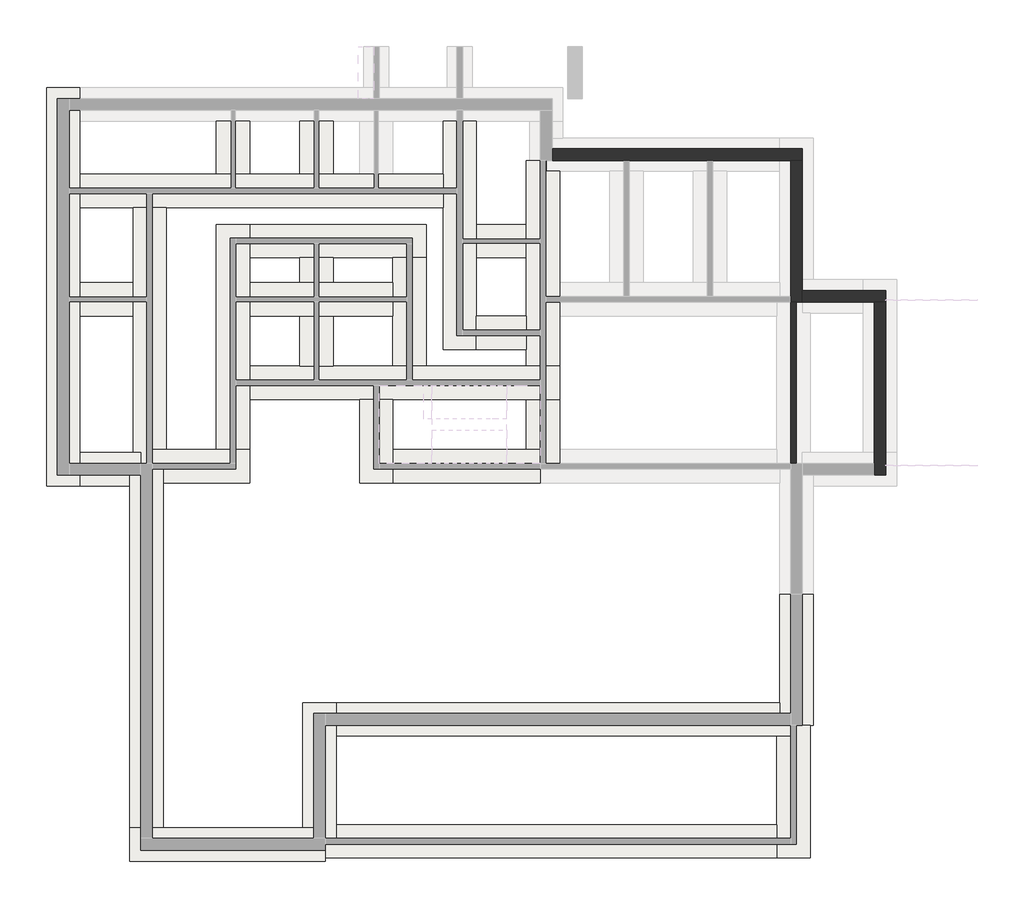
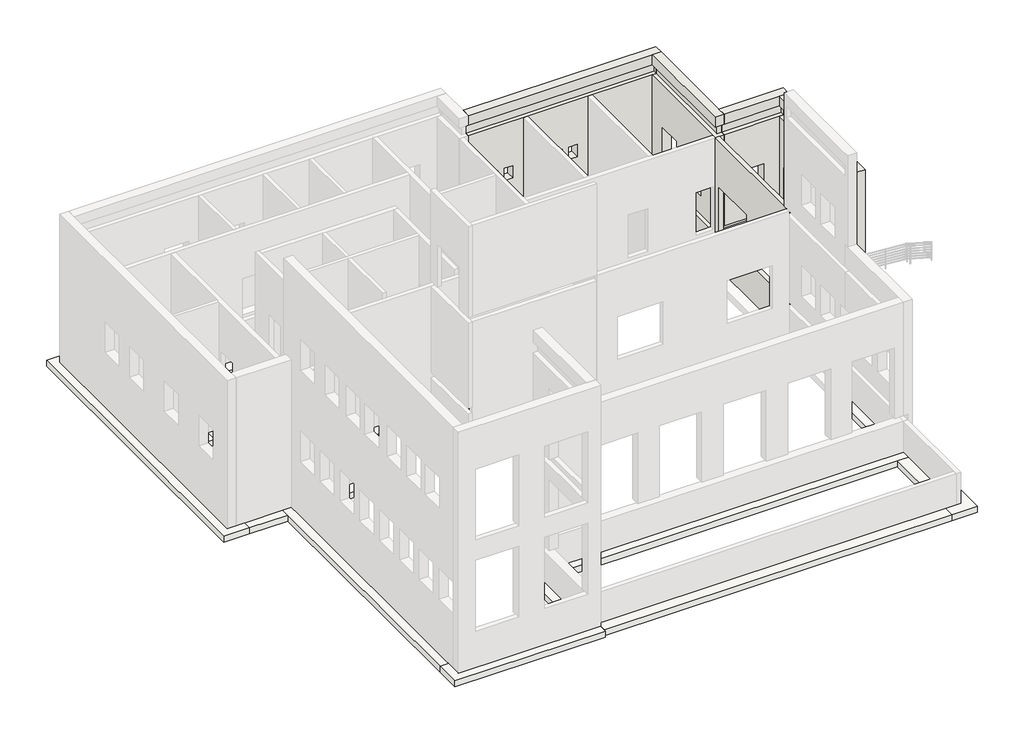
# One storey, part 3 of 5: 27 footings, 5 walls.
"""IFC4 building model written with IfcOpenShell, lengths in millimetres."""

from ifc_helpers import new_model, si_unit, frame, origin, place, context, project, spatial, polyline, outline, extrude, faceted_brep, element, save

model = new_model("IFC4")

# Units and contexts
model_context = context("Model", 3, world=origin())
ifc_project = project(units=[si_unit("LENGTHUNIT", "METRE", prefix="MILLI")], contexts=[model_context])

# Site, building, storey
site = spatial("IfcSite", under=ifc_project)
building = spatial("IfcBuilding", under=site)
storey = spatial("IfcBuildingStorey", under=building, Name="Фундамент", Elevation=-1800.0)

# Footings
placement = place(None, origin())
element("IfcFooting", 1, ObjectType="Опорная пята - 1200 x 300", at=placement, inside=storey, context=model_context, shape_type="Brep", body=[
    faceted_brep([(8252.7882356, 1082.3976828, -1800.0), (9452.7882356, 1082.3976828, -1800.0), (9452.7882356, 1082.3976828, -2100.0), (8252.7882356, 1082.3976828, -2100.0), (9452.7882356, -3627.6023172, -1800.0), (9342.7882356, -3627.6023172, -1800.0), (8794.5092705, -3627.6023172, -1800.0), (8252.7882356, -3627.6023172, -1800.0), (8252.7882356, -3627.6023172, -2100.0), (8794.5092705, -3627.6023172, -2100.0), (9342.7882356, -3627.6023172, -2100.0), (9452.7882356, -3627.6023172, -2100.0), (8252.7882356, -2817.6023172, -1800.0), (8252.7882356, -2817.6023172, -2100.0)], [[[0, 1, 2, 3]], [[4, 5, 6, 7, 8, 9, 10, 11]], [[0, 12, 7, 6, 5, 4, 1]], [[2, 1, 4, 11]], [[3, 2, 11, 10, 9, 8, 13]], [[0, 3, 13, 8, 7, 12]]]),
])
element("IfcFooting", 2, ObjectType="Опорная пята - 1200 x 300", at=placement, inside=storey, context=model_context, shape_type="Brep", body=[
    faceted_brep([(-16917.2117644, 4982.3976828, -1800.0), (-16917.2117644, 6182.3976828, -1800.0), (-16917.2117644, 11092.3976828, -1800.0), (-16917.2117644, 12292.3976828, -1800.0), (-16917.2117644, 14992.3976828, -1800.0), (-16917.2117644, 16192.3976828, -1800.0), (-16917.2117644, 18102.3976828, -1800.0), (-16917.2117644, 19302.3976828, -1800.0), (-18117.2117644, 19302.3976828, -1800.0), (-18117.2117644, 4982.3976828, -1800.0), (-18117.2117644, 4982.3976828, -2100.0), (-18117.2117644, 19302.3976828, -2100.0), (-16917.2117644, 4982.3976828, -2100.0), (-16917.2117644, 19302.3976828, -2100.0), (-16917.2117644, 18102.3976828, -2100.0), (-16917.2117644, 16192.3976828, -2100.0), (-16917.2117644, 14992.3976828, -2100.0), (-16917.2117644, 12292.3976828, -2100.0), (-16917.2117644, 11092.3976828, -2100.0), (-16917.2117644, 6182.3976828, -2100.0)], [[[0, 1, 2, 3, 4, 5, 6, 7, 8, 9]], [[10, 9, 8, 11]], [[12, 10, 11, 13, 14, 15, 16, 17, 18, 19]], [[0, 12, 19, 18, 17, 16, 15, 14, 13, 7, 6, 5, 4, 3, 2, 1]], [[8, 7, 13, 11]], [[0, 9, 10, 12]]]),
])
element("IfcFooting", 3, ObjectType="Опорная пята - 1200 x 300", at=placement, inside=storey, context=model_context, shape_type="Brep", body=[
    faceted_brep([(-8087.2117644, -7317.6023172, -1800.0), (-8087.2117644, -7707.6023172, -1800.0), (-8087.2117644, -8407.6023172, -1800.0), (-8087.2117644, -8517.6023172, -1800.0), (-8087.2117644, -8517.6023172, -2100.0), (-8087.2117644, -8407.6023172, -2100.0), (-8087.2117644, -7707.6023172, -2100.0), (-8087.2117644, -7317.6023172, -2100.0), (-8897.2117644, -7317.6023172, -1800.0), (-13917.2117644, -7317.6023172, -1800.0), (-15117.2117644, -7317.6023172, -1800.0), (-15117.2117644, -8517.6023172, -1800.0), (-15117.2117644, -8517.6023172, -2100.0), (-15117.2117644, -7317.6023172, -2100.0), (-13917.2117644, -7317.6023172, -2100.0), (-8897.2117644, -7317.6023172, -2100.0)], [[[0, 1, 2, 3, 4, 5, 6, 7]], [[0, 8, 9, 10, 11, 3, 2, 1]], [[4, 3, 11, 12]], [[7, 6, 5, 4, 12, 13, 14, 15]], [[0, 7, 15, 14, 13, 10, 9, 8]], [[11, 10, 13, 12]]]),
])
element("IfcFooting", 4, ObjectType="Опорная пята - 1200 x 300", at=placement, inside=storey, context=model_context, shape_type="Brep", body=[
    faceted_brep([(-15117.2117644, 5792.3976828, -2100.0), (-15117.2117644, 5792.3976828, -1800.0), (-14727.2117644, 5792.3976828, -1800.0), (-14307.2117644, 5792.3976828, -1800.0), (-13917.2117644, 5792.3976828, -1800.0), (-13917.2117644, 5792.3976828, -2100.0), (-14307.2117644, 5792.3976828, -2100.0), (-14727.2117644, 5792.3976828, -2100.0), (-15117.2117644, 4982.3976828, -1800.0), (-15117.2117644, -7317.6023172, -1800.0), (-13917.2117644, -7317.6023172, -1800.0), (-13917.2117644, 5092.3976828, -1800.0), (-15117.2117644, 4982.3976828, -2100.0), (-15117.2117644, -7317.6023172, -2100.0), (-13917.2117644, 5092.3976828, -2100.0), (-13917.2117644, -7317.6023172, -2100.0)], [[[0, 1, 2, 3, 4, 5, 6, 7]], [[4, 3, 2, 1, 8, 9, 10, 11]], [[1, 0, 12, 13, 9, 8]], [[0, 7, 6, 5, 14, 15, 13, 12]], [[5, 4, 11, 10, 15, 14]], [[10, 9, 13, 15]]]),
])
element("IfcFooting", 5, ObjectType="Опорная пята - 1200 x 300", at=placement, inside=storey, context=model_context, shape_type="Brep", body=[
    faceted_brep([(-14727.2117644, 6182.3976828, -2100.0), (-14727.2117644, 6182.3976828, -1800.0), (-14727.2117644, 5792.3976828, -1800.0), (-14727.2117644, 5792.3976828, -2100.0), (-15007.2117644, 6182.3976828, -1800.0), (-16917.2117644, 6182.3976828, -1800.0), (-16917.2117644, 4982.3976828, -1800.0), (-15117.2117644, 4982.3976828, -1800.0), (-15117.2117644, 5792.3976828, -1800.0), (-16917.2117644, 4982.3976828, -2100.0), (-15117.2117644, 4982.3976828, -2100.0), (-16917.2117644, 6182.3976828, -2100.0), (-15007.2117644, 6182.3976828, -2100.0), (-15117.2117644, 5792.3976828, -2100.0)], [[[0, 1, 2, 3]], [[1, 4, 5, 6, 7, 8, 2]], [[6, 9, 10, 7]], [[11, 12, 0, 3, 13, 10, 9]], [[1, 0, 12, 11, 5, 4]], [[6, 5, 11, 9]], [[8, 13, 3, 2]], [[13, 8, 7, 10]]]),
])
element("IfcFooting", 6, ObjectType="Опорная пята - 1200 x 300", at=placement, inside=storey, context=model_context, shape_type="Brep", body=[
    faceted_brep([(-14307.2117644, 6292.3976828, -1800.0), (-14307.2117644, 6292.3976828, -2100.0), (-14307.2117644, 5792.3976828, -2100.0), (-14307.2117644, 5792.3976828, -1800.0), (-10807.2117644, 6292.3976828, -1800.0), (-12007.2117644, 6292.3976828, -1800.0), (-13807.2117644, 6292.3976828, -1800.0), (-13917.2117644, 5792.3976828, -1800.0), (-13917.2117644, 5092.3976828, -1800.0), (-10807.2117644, 5092.3976828, -1800.0), (-10807.2117644, 6292.3976828, -2100.0), (-12007.2117644, 6292.3976828, -2100.0), (-13807.2117644, 6292.3976828, -2100.0), (-10807.2117644, 5092.3976828, -2100.0), (-13917.2117644, 5092.3976828, -2100.0), (-13917.2117644, 5792.3976828, -2100.0)], [[[0, 1, 2, 3]], [[4, 5, 6, 0, 3, 7, 8, 9]], [[1, 0, 6, 5, 4, 10, 11, 12]], [[1, 12, 11, 10, 13, 14, 15, 2]], [[13, 9, 8, 14]], [[4, 9, 13, 10]], [[15, 7, 3, 2]], [[7, 15, 14, 8]]]),
])
element("IfcFooting", 7, ObjectType="Опорная пята - 1200 x 300", at=placement, inside=storey, context=model_context, shape_type="Brep", body=[
    faceted_brep([(-10807.2117644, 14392.3976828, -1800.0), (-12007.2117644, 14392.3976828, -1800.0), (-12007.2117644, 6292.3976828, -1800.0), (-10807.2117644, 6292.3976828, -1800.0), (-10807.2117644, 8092.3976828, -1800.0), (-10807.2117644, 9292.3976828, -1800.0), (-10807.2117644, 11092.3976828, -1800.0), (-10807.2117644, 12292.3976828, -1800.0), (-10807.2117644, 13192.3976828, -1800.0), (-12007.2117644, 14392.3976828, -2100.0), (-12007.2117644, 6292.3976828, -2100.0), (-10807.2117644, 14392.3976828, -2100.0), (-10807.2117644, 13192.3976828, -2100.0), (-10807.2117644, 12292.3976828, -2100.0), (-10807.2117644, 11092.3976828, -2100.0), (-10807.2117644, 9292.3976828, -2100.0), (-10807.2117644, 8092.3976828, -2100.0), (-10807.2117644, 6292.3976828, -2100.0)], [[[0, 1, 2, 3, 4, 5, 6, 7, 8]], [[1, 9, 10, 2]], [[9, 11, 12, 13, 14, 15, 16, 17, 10]], [[11, 0, 8, 7, 6, 5, 4, 3, 17, 16, 15, 14, 13, 12]], [[1, 0, 11, 9]], [[3, 2, 10, 17]]]),
])
element("IfcFooting", 8, ObjectType="Опорная пята - 1200 x 300", at=placement, inside=storey, context=model_context, shape_type="Brep", body=[
    faceted_brep([(-10807.2117644, 8092.3976828, -1800.0), (-6857.2117644, 8092.3976828, -1800.0), (-5657.2117644, 8092.3976828, -1800.0), (-857.2117644, 8092.3976828, -1800.0), (342.7882356, 8092.3976828, -1800.0), (342.7882356, 9292.3976828, -1800.0), (-857.2117644, 9292.3976828, -1800.0), (-4457.2117644, 9292.3976828, -1800.0), (-5657.2117644, 9292.3976828, -1800.0), (-7807.2117644, 9292.3976828, -1800.0), (-9007.2117644, 9292.3976828, -1800.0), (-10807.2117644, 9292.3976828, -1800.0), (-10807.2117644, 9292.3976828, -2100.0), (342.7882356, 9292.3976828, -2100.0), (-857.2117644, 9292.3976828, -2100.0), (-4457.2117644, 9292.3976828, -2100.0), (-5657.2117644, 9292.3976828, -2100.0), (-7807.2117644, 9292.3976828, -2100.0), (-9007.2117644, 9292.3976828, -2100.0), (-10807.2117644, 8092.3976828, -2100.0), (342.7882356, 8092.3976828, -2100.0), (-857.2117644, 8092.3976828, -2100.0), (-5657.2117644, 8092.3976828, -2100.0), (-6857.2117644, 8092.3976828, -2100.0)], [[[0, 1, 2, 3, 4, 5, 6, 7, 8, 9, 10, 11]], [[12, 11, 10, 9, 8, 7, 6, 5, 13, 14, 15, 16, 17, 18]], [[19, 12, 18, 17, 16, 15, 14, 13, 20, 21, 22, 23]], [[0, 19, 23, 22, 21, 20, 4, 3, 2, 1]], [[0, 11, 12, 19]], [[5, 4, 20, 13]]]),
])
element("IfcFooting", 9, ObjectType="Опорная пята - 1200 x 300", at=placement, inside=storey, context=model_context, shape_type="Brep", body=[
    faceted_brep([(-6857.2117644, 8092.3976828, -1800.0), (-6857.2117644, 5092.3976828, -1800.0), (-5657.2117644, 5092.3976828, -1800.0), (-5657.2117644, 6292.3976828, -1800.0), (-5657.2117644, 8092.3976828, -1800.0), (-5657.2117644, 8092.3976828, -2100.0), (-5657.2117644, 5092.3976828, -2100.0), (-5657.2117644, 6292.3976828, -2100.0), (-6857.2117644, 8092.3976828, -2100.0), (-6857.2117644, 5092.3976828, -2100.0)], [[[0, 1, 2, 3, 4]], [[5, 4, 3, 2, 6, 7]], [[8, 5, 7, 6, 9]], [[0, 8, 9, 1]], [[0, 4, 5, 8]], [[2, 1, 9, 6]]]),
])
element("IfcFooting", 10, ObjectType="Опорная пята - 1200 x 300", at=placement, inside=storey, context=model_context, shape_type="Brep", body=[
    faceted_brep([(-357.2117644, 6292.3976828, -2100.0), (-357.2117644, 6292.3976828, -1800.0), (-357.2117644, 5792.3976828, -1800.0), (-357.2117644, 5092.3976828, -1800.0), (-357.2117644, 5092.3976828, -2100.0), (-357.2117644, 5792.3976828, -2100.0), (-857.2117644, 6292.3976828, -1800.0), (-5657.2117644, 6292.3976828, -1800.0), (-5657.2117644, 5092.3976828, -1800.0), (-857.2117644, 6292.3976828, -2100.0), (-5657.2117644, 6292.3976828, -2100.0), (-5657.2117644, 5092.3976828, -2100.0)], [[[0, 1, 2, 3, 4, 5]], [[3, 2, 1, 6, 7, 8]], [[1, 0, 9, 10, 7, 6]], [[0, 5, 4, 11, 10, 9]], [[4, 3, 8, 11]], [[8, 7, 10, 11]]]),
])
element("IfcFooting", 11, ObjectType="Опорная пята - 1200 x 300", at=placement, inside=storey, context=model_context, shape_type="Brep", body=[
    faceted_brep([(342.7882356, 5792.3976828, -2100.0), (342.7882356, 5792.3976828, -1800.0), (-157.2117644, 5792.3976828, -1800.0), (-357.2117644, 5792.3976828, -1800.0), (-357.2117644, 5792.3976828, -2100.0), (342.7882356, 6292.3976828, -1800.0), (342.7882356, 8092.3976828, -1800.0), (-857.2117644, 8092.3976828, -1800.0), (-857.2117644, 6292.3976828, -1800.0), (-357.2117644, 6292.3976828, -1800.0), (-857.2117644, 8092.3976828, -2100.0), (-857.2117644, 6292.3976828, -2100.0), (342.7882356, 8092.3976828, -2100.0), (342.7882356, 6292.3976828, -2100.0), (-357.2117644, 6292.3976828, -2100.0)], [[[0, 1, 2, 3, 4]], [[1, 5, 6, 7, 8, 9, 3, 2]], [[7, 10, 11, 8]], [[12, 13, 0, 4, 14, 11, 10]], [[1, 0, 13, 12, 6, 5]], [[7, 6, 12, 10]], [[9, 14, 4, 3]], [[14, 9, 8, 11]]]),
    faceted_brep([(-857.2117644, 16692.3976828, -2100.0), (-857.2117644, 16692.3976828, -1800.0), (-747.2117644, 16692.3976828, -1800.0), (-357.2117644, 16692.3976828, -1800.0), (-157.2117644, 16692.3976828, -1800.0), (-149.2724245, 16692.3976828, -1800.0), (-149.2724245, 16692.3976828, -2100.0), (-747.2117644, 16692.3976828, -2100.0), (-857.2117644, 14392.3976828, -1800.0), (-857.2117644, 13192.3976828, -1800.0), (-857.2117644, 11092.3976828, -1800.0), (-857.2117644, 9892.3976828, -1800.0), (-857.2117644, 9292.3976828, -1800.0), (342.7882356, 9292.3976828, -1800.0), (342.7882356, 11092.3976828, -1800.0), (342.7882356, 12292.3976828, -1800.0), (342.7882356, 16302.3976828, -1800.0), (-153.0993647, 16302.3976828, -1800.0), (-857.2117644, 14392.3976828, -2100.0), (-857.2117644, 13192.3976828, -2100.0), (-857.2117644, 11092.3976828, -2100.0), (-857.2117644, 9892.3976828, -2100.0), (-857.2117644, 9292.3976828, -2100.0), (-153.0993647, 16302.3976828, -2100.0), (342.7882356, 16302.3976828, -2100.0), (342.7882356, 12292.3976828, -2100.0), (342.7882356, 11092.3976828, -2100.0), (342.7882356, 9292.3976828, -2100.0)], [[[0, 1, 2, 3, 4, 5, 6, 7]], [[5, 4, 3, 2, 1, 8, 9, 10, 11, 12, 13, 14, 15, 16, 17]], [[1, 0, 18, 19, 20, 21, 22, 12, 11, 10, 9, 8]], [[0, 7, 6, 23, 24, 25, 26, 27, 22, 21, 20, 19, 18]], [[24, 16, 15, 14, 13, 27, 26, 25]], [[23, 17, 16, 24]], [[17, 23, 6, 5]], [[13, 12, 22, 27]]]),
])
element("IfcFooting", 12, ObjectType="Опорная пята - 1200 x 300", at=placement, inside=storey, context=model_context, shape_type="Brep", body=[
    faceted_brep([(-4457.2117644, 13192.3976828, -1800.0), (-4457.2117644, 14392.3976828, -1800.0), (-10807.2117644, 14392.3976828, -1800.0), (-10807.2117644, 13192.3976828, -1800.0), (-9007.2117644, 13192.3976828, -1800.0), (-7807.2117644, 13192.3976828, -1800.0), (-5657.2117644, 13192.3976828, -1800.0), (-4457.2117644, 14392.3976828, -2100.0), (-10807.2117644, 14392.3976828, -2100.0), (-4457.2117644, 13192.3976828, -2100.0), (-5657.2117644, 13192.3976828, -2100.0), (-7807.2117644, 13192.3976828, -2100.0), (-9007.2117644, 13192.3976828, -2100.0), (-10807.2117644, 13192.3976828, -2100.0)], [[[0, 1, 2, 3, 4, 5, 6]], [[1, 7, 8, 2]], [[7, 9, 10, 11, 12, 13, 8]], [[9, 0, 6, 5, 4, 3, 13, 12, 11, 10]], [[1, 0, 9, 7]], [[3, 2, 8, 13]]]),
])
element("IfcFooting", 13, ObjectType="Опорная пята - 1200 x 300", at=placement, inside=storey, context=model_context, shape_type="Brep", body=[
    faceted_brep([(-5657.2117644, 9292.3976828, -1800.0), (-4457.2117644, 9292.3976828, -1800.0), (-4457.2117644, 13192.3976828, -1800.0), (-5657.2117644, 13192.3976828, -1800.0), (-5657.2117644, 12292.3976828, -1800.0), (-5657.2117644, 11092.3976828, -1800.0), (-4457.2117644, 9292.3976828, -2100.0), (-4457.2117644, 13192.3976828, -2100.0), (-5657.2117644, 9292.3976828, -2100.0), (-5657.2117644, 11092.3976828, -2100.0), (-5657.2117644, 12292.3976828, -2100.0), (-5657.2117644, 13192.3976828, -2100.0)], [[[0, 1, 2, 3, 4, 5]], [[1, 6, 7, 2]], [[6, 8, 9, 10, 11, 7]], [[8, 0, 5, 4, 3, 11, 10, 9]], [[1, 0, 8, 6]], [[3, 2, 7, 11]]]),
])
element("IfcFooting", 14, ObjectType="Опорная пята - 1200 x 300", at=placement, inside=storey, context=model_context, shape_type="Brep", body=[
    faceted_brep([(-14727.2117644, 5792.3976828, -1800.0), (-14727.2117644, 5792.3976828, -2100.0), (-14307.2117644, 5792.3976828, -2100.0), (-14307.2117644, 5792.3976828, -1800.0), (-13807.2117644, 14992.3976828, -1800.0), (-15007.2117644, 14992.3976828, -1800.0), (-15007.2117644, 12292.3976828, -1800.0), (-15007.2117644, 11092.3976828, -1800.0), (-15007.2117644, 6182.3976828, -1800.0), (-14727.2117644, 6182.3976828, -1800.0), (-14307.2117644, 6292.3976828, -1800.0), (-13807.2117644, 6292.3976828, -1800.0), (-15007.2117644, 14992.3976828, -2100.0), (-15007.2117644, 12292.3976828, -2100.0), (-15007.2117644, 11092.3976828, -2100.0), (-15007.2117644, 6182.3976828, -2100.0), (-13807.2117644, 14992.3976828, -2100.0), (-13807.2117644, 6292.3976828, -2100.0), (-14307.2117644, 6292.3976828, -2100.0), (-14727.2117644, 6182.3976828, -2100.0)], [[[0, 1, 2, 3]], [[4, 5, 6, 7, 8, 9, 0, 3, 10, 11]], [[5, 12, 13, 14, 15, 8, 7, 6]], [[12, 16, 17, 18, 2, 1, 19, 15, 14, 13]], [[16, 4, 11, 17]], [[5, 4, 16, 12]], [[9, 19, 1, 0]], [[19, 9, 8, 15]], [[18, 10, 3, 2]], [[10, 18, 17, 11]]]),
])
element("IfcFooting", 15, ObjectType="Опорная пята - 1200 x 300", at=placement, inside=storey, context=model_context, shape_type="Brep", body=[
    faceted_brep([(-16917.2117644, 14992.3976828, -1800.0), (-15007.2117644, 14992.3976828, -1800.0), (-13807.2117644, 14992.3976828, -1800.0), (-3857.2117644, 14992.3976828, -1800.0), (-3857.2117644, 16192.3976828, -1800.0), (-5657.2117644, 16192.3976828, -1800.0), (-6857.2117644, 16192.3976828, -1800.0), (-7807.2117644, 16192.3976828, -1800.0), (-9007.2117644, 16192.3976828, -1800.0), (-10807.2117644, 16192.3976828, -1800.0), (-12007.2117644, 16192.3976828, -1800.0), (-16917.2117644, 16192.3976828, -1800.0), (-16917.2117644, 16192.3976828, -2100.0), (-3857.2117644, 16192.3976828, -2100.0), (-5657.2117644, 16192.3976828, -2100.0), (-6857.2117644, 16192.3976828, -2100.0), (-7807.2117644, 16192.3976828, -2100.0), (-9007.2117644, 16192.3976828, -2100.0), (-10807.2117644, 16192.3976828, -2100.0), (-12007.2117644, 16192.3976828, -2100.0), (-16917.2117644, 14992.3976828, -2100.0), (-3857.2117644, 14992.3976828, -2100.0), (-13807.2117644, 14992.3976828, -2100.0), (-15007.2117644, 14992.3976828, -2100.0)], [[[0, 1, 2, 3, 4, 5, 6, 7, 8, 9, 10, 11]], [[12, 11, 10, 9, 8, 7, 6, 5, 4, 13, 14, 15, 16, 17, 18, 19]], [[20, 12, 19, 18, 17, 16, 15, 14, 13, 21, 22, 23]], [[0, 20, 23, 22, 21, 3, 2, 1]], [[0, 11, 12, 20]], [[4, 3, 21, 13]]]),
])
element("IfcFooting", 16, ObjectType="Опорная пята - 1200 x 300", at=placement, inside=storey, context=model_context, shape_type="Brep", body=[
    faceted_brep([(-3857.2117644, 18102.3976828, -1800.0), (-3857.2117644, 16192.3976828, -1800.0), (-3857.2117644, 14992.3976828, -1800.0), (-3857.2117644, 9892.3976828, -1800.0), (-2657.2117644, 9892.3976828, -1800.0), (-2657.2117644, 11092.3976828, -1800.0), (-2657.2117644, 13192.3976828, -1800.0), (-2657.2117644, 14392.3976828, -1800.0), (-2657.2117644, 18102.3976828, -1800.0), (-2657.2117644, 18102.3976828, -2100.0), (-2657.2117644, 9892.3976828, -2100.0), (-2657.2117644, 11092.3976828, -2100.0), (-2657.2117644, 13192.3976828, -2100.0), (-2657.2117644, 14392.3976828, -2100.0), (-3857.2117644, 18102.3976828, -2100.0), (-3857.2117644, 9892.3976828, -2100.0), (-3857.2117644, 14992.3976828, -2100.0), (-3857.2117644, 16192.3976828, -2100.0)], [[[0, 1, 2, 3, 4, 5, 6, 7, 8]], [[9, 8, 7, 6, 5, 4, 10, 11, 12, 13]], [[14, 9, 13, 12, 11, 10, 15, 16, 17]], [[0, 14, 17, 16, 15, 3, 2, 1]], [[0, 8, 9, 14]], [[4, 3, 15, 10]]]),
])
element("IfcFooting", 17, ObjectType="Опорная пята - 1200 x 300", at=placement, inside=storey, context=model_context, shape_type="SweptSolid", body=[
    extrude(outline(polyline([(-857.2117644, 11092.3976828), (-857.2117644, 9892.3976828), (-2657.2117644, 9892.3976828), (-2657.2117644, 11092.3976828), (-857.2117644, 11092.3976828)])), frame((0.0, 0.0, -2100.0), z_axis=(0.0, 0.0, 1.0), x_axis=(1.0, 0.0, 0.0)), (0.0, 0.0, 1.0), 300.0),
])
element("IfcFooting", 18, ObjectType="Опорная пята - 1200 x 300", at=placement, inside=storey, context=model_context, shape_type="SweptSolid", body=[
    extrude(outline(polyline([(-16917.2117644, 11092.3976828), (-16917.2117644, 12292.3976828), (-15007.2117644, 12292.3976828), (-15007.2117644, 11092.3976828), (-16917.2117644, 11092.3976828)])), frame((0.0, 0.0, -2100.0), z_axis=(0.0, 0.0, 1.0), x_axis=(1.0, 0.0, 0.0)), (0.0, 0.0, 1.0), 300.0),
])
element("IfcFooting", 19, ObjectType="Опорная пята - 1200 x 300", at=placement, inside=storey, context=model_context, shape_type="SweptSolid", body=[
    extrude(outline(polyline([(-12007.2117644, 18102.3976828), (-10807.2117644, 18102.3976828), (-10807.2117644, 16192.3976828), (-12007.2117644, 16192.3976828), (-12007.2117644, 18102.3976828)])), frame((0.0, 0.0, -2100.0), z_axis=(0.0, 0.0, 1.0), x_axis=(1.0, 0.0, 0.0)), (0.0, 0.0, 1.0), 300.0),
])
element("IfcFooting", 20, ObjectType="Опорная пята - 1200 x 300", at=placement, inside=storey, context=model_context, shape_type="SweptSolid", body=[
    extrude(outline(polyline([(-9007.2117644, 18102.3976828), (-7807.2117644, 18102.3976828), (-7807.2117644, 16192.3976828), (-9007.2117644, 16192.3976828), (-9007.2117644, 18102.3976828)])), frame((0.0, 0.0, -2100.0), z_axis=(0.0, 0.0, 1.0), x_axis=(1.0, 0.0, 0.0)), (0.0, 0.0, 1.0), 300.0),
])
element("IfcFooting", 21, ObjectType="Опорная пята - 1200 x 300", at=placement, inside=storey, context=model_context, shape_type="SweptSolid", body=[
    extrude(outline(polyline([(-857.2117644, 14392.3976828), (-857.2117644, 13192.3976828), (-2657.2117644, 13192.3976828), (-2657.2117644, 14392.3976828), (-857.2117644, 14392.3976828)])), frame((0.0, 0.0, -2100.0), z_axis=(0.0, 0.0, 1.0), x_axis=(1.0, 0.0, 0.0)), (0.0, 0.0, 1.0), 300.0),
])
element("IfcFooting", 22, ObjectType="Опорная пята - 1200 x 300", at=placement, inside=storey, context=model_context, shape_type="Brep", body=[
    faceted_brep([(-10807.2117644, 11092.3976828, -1800.0), (-9007.2117644, 11092.3976828, -1800.0), (-7807.2117644, 11092.3976828, -1800.0), (-5657.2117644, 11092.3976828, -1800.0), (-5657.2117644, 12292.3976828, -1800.0), (-7807.2117644, 12292.3976828, -1800.0), (-9007.2117644, 12292.3976828, -1800.0), (-10807.2117644, 12292.3976828, -1800.0), (-10807.2117644, 12292.3976828, -2100.0), (-5657.2117644, 12292.3976828, -2100.0), (-7807.2117644, 12292.3976828, -2100.0), (-9007.2117644, 12292.3976828, -2100.0), (-10807.2117644, 11092.3976828, -2100.0), (-5657.2117644, 11092.3976828, -2100.0), (-7807.2117644, 11092.3976828, -2100.0), (-9007.2117644, 11092.3976828, -2100.0)], [[[0, 1, 2, 3, 4, 5, 6, 7]], [[8, 7, 6, 5, 4, 9, 10, 11]], [[12, 8, 11, 10, 9, 13, 14, 15]], [[0, 12, 15, 14, 13, 3, 2, 1]], [[0, 7, 8, 12]], [[4, 3, 13, 9]]]),
])
element("IfcFooting", 23, ObjectType="Опорная пята - 1200 x 300", at=placement, inside=storey, context=model_context, shape_type="SweptSolid", body=[
    extrude(outline(polyline([(-7807.2117644, 9292.3976828), (-9007.2117644, 9292.3976828), (-9007.2117644, 11092.3976828), (-7807.2117644, 11092.3976828), (-7807.2117644, 9292.3976828)])), frame((0.0, 0.0, -2100.0), z_axis=(0.0, 0.0, 1.0), x_axis=(1.0, 0.0, 0.0)), (0.0, 0.0, 1.0), 300.0),
    extrude(outline(polyline([(-9007.2117644, 13192.3976828), (-7807.2117644, 13192.3976828), (-7807.2117644, 12292.3976828), (-9007.2117644, 12292.3976828), (-9007.2117644, 13192.3976828)])), frame((0.0, 0.0, -2100.0), z_axis=(0.0, 0.0, 1.0), x_axis=(1.0, 0.0, 0.0)), (0.0, 0.0, 1.0), 300.0),
])
element("IfcFooting", 24, ObjectType="Опорная пята - 1200 x 300", at=placement, inside=storey, context=model_context, shape_type="Brep", body=[
    faceted_brep([(-7697.2117644, -7707.6023172, -2100.0), (-7697.2117644, -7707.6023172, -1800.0), (-8087.2117644, -7707.6023172, -1800.0), (-8087.2117644, -7707.6023172, -2100.0), (-7697.2117644, -7207.6023172, -1800.0), (-7697.2117644, -4017.6023172, -1800.0), (-7697.2117644, -2817.6023172, -1800.0), (-8897.2117644, -2817.6023172, -1800.0), (-8897.2117644, -7317.6023172, -1800.0), (-8087.2117644, -7317.6023172, -1800.0), (-8897.2117644, -2817.6023172, -2100.0), (-8897.2117644, -7317.6023172, -2100.0), (-7697.2117644, -2817.6023172, -2100.0), (-7697.2117644, -4017.6023172, -2100.0), (-7697.2117644, -7207.6023172, -2100.0), (-8087.2117644, -7317.6023172, -2100.0)], [[[0, 1, 2, 3]], [[1, 4, 5, 6, 7, 8, 9, 2]], [[7, 10, 11, 8]], [[12, 13, 14, 0, 3, 15, 11, 10]], [[1, 0, 14, 13, 12, 6, 5, 4]], [[7, 6, 12, 10]], [[9, 15, 3, 2]], [[15, 9, 8, 11]]]),
])
element("IfcFooting", 25, ObjectType="Опорная пята - 1200 x 300", at=placement, inside=storey, context=model_context, shape_type="Brep", body=[
    faceted_brep([(8789.6836237, -4017.6023172, -1800.0), (8794.5092705, -3627.6023172, -1800.0), (8252.7882356, -3627.6023172, -1800.0), (8252.7882356, -2817.6023172, -1800.0), (-7697.2117644, -2817.6023172, -1800.0), (-7697.2117644, -4017.6023172, -1800.0), (8142.7882356, -4017.6023172, -1800.0), (8252.7882356, -2817.6023172, -2100.0), (-7697.2117644, -2817.6023172, -2100.0), (8794.5092705, -3627.6023172, -2100.0), (8789.6836237, -4017.6023172, -2100.0), (8142.7882356, -4017.6023172, -2100.0), (-7697.2117644, -4017.6023172, -2100.0), (8252.7882356, -3627.6023172, -2100.0)], [[[0, 1, 2, 3, 4, 5, 6]], [[3, 7, 8, 4]], [[9, 10, 11, 12, 8, 7, 13]], [[10, 0, 6, 5, 12, 11]], [[0, 10, 9, 1]], [[13, 2, 1, 9]], [[2, 13, 7, 3]], [[5, 4, 8, 12]]]),
])
element("IfcFooting", 26, ObjectType="Опорная пята - 1200 x 300", at=placement, inside=storey, context=model_context, shape_type="Brep", body=[
    faceted_brep([(9342.7882356, -3627.6023172, -1800.0), (9342.7882356, -3627.6023172, -2100.0), (8794.5092705, -3627.6023172, -2100.0), (8794.5092705, -3627.6023172, -1800.0), (9342.7882356, -8407.6023172, -1800.0), (8789.6836237, -4017.6023172, -1800.0), (8142.7882356, -4017.6023172, -1800.0), (8142.7882356, -7207.6023172, -1800.0), (8142.7882356, -8407.6023172, -1800.0), (9342.7882356, -8407.6023172, -2100.0), (8142.7882356, -8407.6023172, -2100.0), (8142.7882356, -7207.6023172, -2100.0), (8142.7882356, -4017.6023172, -2100.0), (8789.6836237, -4017.6023172, -2100.0)], [[[0, 1, 2, 3]], [[4, 0, 3, 5, 6, 7, 8]], [[1, 0, 4, 9]], [[1, 9, 10, 11, 12, 13, 2]], [[10, 8, 7, 6, 12, 11]], [[4, 8, 10, 9]], [[5, 13, 12, 6]], [[13, 5, 3, 2]]]),
])
element("IfcFooting", 27, ObjectType="Опорная пята - 1200 x 300", at=placement, inside=storey, context=model_context, shape_type="SweptSolid", body=[
    extrude(outline(polyline([(-8087.2117644, -8407.6023172), (-8087.2117644, -7707.6023172), (-7697.2117644, -7707.6023172), (-7697.2117644, -7207.6023172), (8142.7882356, -7207.6023172), (8142.7882356, -8407.6023172), (-8087.2117644, -8407.6023172)])), frame((0.0, 0.0, -2100.0), z_axis=(0.0, 0.0, 1.0), x_axis=(1.0, 0.0, 0.0)), (0.0, 0.0, 1.0), 300.0),
])

# Walls
element("IfcWall", 28, ObjectType="_ЖБ-200_У-100_К-120", at=placement, inside=storey, context=model_context, shape_type="Brep", body=[
    faceted_brep([(62.7882356, 16692.3976828, -1800.0), (8642.7882356, 16692.3976828, -1800.0), (9062.7882356, 16692.3976828, -1800.0), (9062.7882356, 16692.3976828, 5500.0), (8642.7882356, 16692.3976828, 5500.0), (62.7882356, 16692.3976828, 5500.0), (62.7882356, 16692.3976828, 5015.0), (8642.7882356, 16692.3976828, 5015.0), (8842.7882356, 16692.3976828, 5015.0), (8842.7882356, 16692.3976828, 4500.0), (8642.7882356, 16692.3976828, 4500.0), (62.7882356, 16692.3976828, 4500.0), (62.7882356, 16692.3976828, 0.0), (8642.7882356, 16692.3976828, 0.0), (8842.7882356, 16692.3976828, 0.0), (8842.7882356, 16692.3976828, -270.0), (8642.7882356, 16692.3976828, -270.0), (62.7882356, 16692.3976828, -270.0), (3342.7882356, 16692.3976828, 1700.0), (3342.7882356, 16692.3976828, 2300.0), (3742.7882356, 16692.3976828, 2300.0), (3742.7882356, 16692.3976828, 1700.0), (4042.7882356, 16692.3976828, 1700.0), (4042.7882356, 16692.3976828, 2300.0), (4442.7882356, 16692.3976828, 2300.0), (4442.7882356, 16692.3976828, 1700.0), (4742.7882356, 16692.3976828, 1700.0), (4742.7882356, 16692.3976828, 2300.0), (5142.7882356, 16692.3976828, 2300.0), (5142.7882356, 16692.3976828, 1700.0), (342.7882356, 16692.3976828, 1700.0), (342.7882356, 16692.3976828, 2300.0), (742.7882356, 16692.3976828, 2300.0), (742.7882356, 16692.3976828, 1700.0), (1042.7882356, 16692.3976828, 1700.0), (1042.7882356, 16692.3976828, 2300.0), (1442.7882356, 16692.3976828, 2300.0), (1442.7882356, 16692.3976828, 1700.0), (1742.7882356, 16692.3976828, 1700.0), (1742.7882356, 16692.3976828, 2300.0), (2142.7882356, 16692.3976828, 2300.0), (2142.7882356, 16692.3976828, 1700.0), (9062.7882356, 17112.3976828, -1800.0), (62.7882356, 17112.3976828, -1800.0), (62.7882356, 17112.3976828, 5500.0), (9062.7882356, 17112.3976828, 5500.0), (3342.7882356, 17112.3976828, 2300.0), (3342.7882356, 17112.3976828, 1700.0), (3742.7882356, 17112.3976828, 1700.0), (3742.7882356, 17112.3976828, 2300.0), (4042.7882356, 17112.3976828, 2300.0), (4042.7882356, 17112.3976828, 1700.0), (4442.7882356, 17112.3976828, 1700.0), (4442.7882356, 17112.3976828, 2300.0), (4742.7882356, 17112.3976828, 2300.0), (4742.7882356, 17112.3976828, 1700.0), (5142.7882356, 17112.3976828, 1700.0), (5142.7882356, 17112.3976828, 2300.0), (342.7882356, 17112.3976828, 2300.0), (342.7882356, 17112.3976828, 1700.0), (742.7882356, 17112.3976828, 1700.0), (742.7882356, 17112.3976828, 2300.0), (1042.7882356, 17112.3976828, 2300.0), (1042.7882356, 17112.3976828, 1700.0), (1442.7882356, 17112.3976828, 1700.0), (1442.7882356, 17112.3976828, 2300.0), (1742.7882356, 17112.3976828, 2300.0), (1742.7882356, 17112.3976828, 1700.0), (2142.7882356, 17112.3976828, 1700.0), (2142.7882356, 17112.3976828, 2300.0), (8842.7882356, 16892.3976828, -270.0), (62.7882356, 16892.3976828, -270.0), (62.7882356, 16892.3976828, 0.0), (8842.7882356, 16892.3976828, 0.0), (62.7882356, 16892.3976828, 4500.0), (62.7882356, 16892.3976828, 5015.0), (8842.7882356, 16892.3976828, 4500.0), (8842.7882356, 16892.3976828, 5015.0)], [[[0, 1, 2, 3, 4, 5, 6, 7, 8, 9, 10, 11, 12, 13, 14, 15, 16, 17], [18, 19, 20, 21], [22, 23, 24, 25], [26, 27, 28, 29], [30, 31, 32, 33], [34, 35, 36, 37], [38, 39, 40, 41]], [[42, 43, 44, 45], [46, 47, 48, 49], [50, 51, 52, 53], [54, 55, 56, 57], [58, 59, 60, 61], [62, 63, 64, 65], [66, 67, 68, 69]], [[2, 1, 0, 43, 42]], [[5, 4, 3, 45, 44]], [[3, 2, 42, 45]], [[15, 70, 71, 17, 16]], [[72, 73, 14, 13, 12]], [[70, 73, 72, 71]], [[73, 70, 15, 14]], [[5, 44, 43, 0, 17, 71, 72, 12, 11, 74, 75, 6]], [[9, 76, 74, 11, 10]], [[75, 77, 8, 7, 6]], [[77, 76, 9, 8]], [[76, 77, 75, 74]], [[19, 18, 47, 46]], [[20, 19, 46, 49]], [[21, 20, 49, 48]], [[18, 21, 48, 47]], [[23, 22, 51, 50]], [[24, 23, 50, 53]], [[25, 24, 53, 52]], [[22, 25, 52, 51]], [[27, 26, 55, 54]], [[28, 27, 54, 57]], [[29, 28, 57, 56]], [[26, 29, 56, 55]], [[31, 30, 59, 58]], [[32, 31, 58, 61]], [[33, 32, 61, 60]], [[30, 33, 60, 59]], [[35, 34, 63, 62]], [[36, 35, 62, 65]], [[37, 36, 65, 64]], [[34, 37, 64, 63]], [[39, 38, 67, 66]], [[40, 39, 66, 69]], [[41, 40, 69, 68]], [[38, 41, 68, 67]]]),
])
element("IfcWall", 29, ObjectType="_ЖБ-200_У-100_К-120", at=placement, inside=storey, context=model_context, shape_type="Brep", body=[
    faceted_brep([(8642.7882356, 16692.3976828, -1800.0), (8642.7882356, 11592.3976828, -1800.0), (8642.7882356, 11592.3976828, -270.0), (8642.7882356, 16692.3976828, -270.0), (8642.7882356, 11592.3976828, 5500.0), (8642.7882356, 16692.3976828, 5500.0), (8642.7882356, 16692.3976828, 5015.0), (8642.7882356, 11592.3976828, 5015.0), (8642.7882356, 16692.3976828, 0.0), (8642.7882356, 11592.3976828, 0.0), (8642.7882356, 11592.3976828, 4500.0), (8642.7882356, 16692.3976828, 4500.0), (8642.7882356, 13852.3976828, 915.0), (8642.7882356, 13852.3976828, 2415.0), (8642.7882356, 12752.3976828, 2415.0), (8642.7882356, 12752.3976828, 915.0), (8642.7882356, 15852.3976828, 915.0), (8642.7882356, 15852.3976828, 2415.0), (8642.7882356, 14752.3976828, 2415.0), (8642.7882356, 14752.3976828, 915.0), (9062.7882356, 11592.3976828, -1800.0), (9062.7882356, 12012.3976828, -1800.0), (9062.7882356, 16692.3976828, -1800.0), (9062.7882356, 16692.3976828, 5500.0), (9062.7882356, 12012.3976828, 5500.0), (9062.7882356, 11592.3976828, 5500.0), (9062.7882356, 11592.3976828, 5015.0), (9062.7882356, 11792.3976828, 5015.0), (9062.7882356, 11792.3976828, 4500.0), (9062.7882356, 11592.3976828, 4500.0), (9062.7882356, 11592.3976828, 0.0), (9062.7882356, 11792.3976828, 0.0), (9062.7882356, 11792.3976828, -270.0), (9062.7882356, 11592.3976828, -270.0), (9062.7882356, 13852.3976828, 2415.0), (9062.7882356, 13852.3976828, 915.0), (9062.7882356, 12752.3976828, 915.0), (9062.7882356, 12752.3976828, 2415.0), (9062.7882356, 15852.3976828, 2415.0), (9062.7882356, 15852.3976828, 915.0), (9062.7882356, 14752.3976828, 915.0), (9062.7882356, 14752.3976828, 2415.0), (8842.7882356, 16692.3976828, -270.0), (8842.7882356, 16692.3976828, 0.0), (8842.7882356, 16692.3976828, 4500.0), (8842.7882356, 16692.3976828, 5015.0), (8842.7882356, 11792.3976828, -270.0), (8842.7882356, 11792.3976828, 0.0), (8842.7882356, 11792.3976828, 4500.0), (8842.7882356, 11792.3976828, 5015.0)], [[[0, 1, 2, 3]], [[4, 5, 6, 7]], [[8, 9, 10, 11], [12, 13, 14, 15], [16, 17, 18, 19]], [[20, 21, 22, 23, 24, 25, 26, 27, 28, 29, 30, 31, 32, 33], [34, 35, 36, 37], [38, 39, 40, 41]], [[1, 0, 22, 21, 20]], [[5, 4, 25, 24, 23]], [[5, 23, 22, 0, 3, 42, 43, 8, 11, 44, 45, 6]], [[32, 46, 42, 3, 2, 33]], [[43, 47, 31, 30, 9, 8]], [[46, 47, 43, 42]], [[47, 46, 32, 31]], [[1, 20, 33, 2]], [[25, 4, 7, 26]], [[9, 30, 29, 10]], [[28, 48, 44, 11, 10, 29]], [[45, 49, 27, 26, 7, 6]], [[49, 48, 28, 27]], [[48, 49, 45, 44]], [[13, 12, 35, 34]], [[14, 13, 34, 37]], [[15, 14, 37, 36]], [[12, 15, 36, 35]], [[17, 16, 39, 38]], [[18, 17, 38, 41]], [[19, 18, 41, 40]], [[16, 19, 40, 39]]]),
])
element("IfcWall", 30, ObjectType="_ЖБ-200_У-100_К-120", at=placement, inside=storey, context=model_context, shape_type="Brep", body=[
    faceted_brep([(9062.7882356, 11592.3976828, -1800.0), (11642.7882356, 11592.3976828, -1800.0), (12062.7882356, 11592.3976828, -1800.0), (12062.7882356, 11592.3976828, 5500.0), (11642.7882356, 11592.3976828, 5500.0), (9062.7882356, 11592.3976828, 5500.0), (9062.7882356, 11592.3976828, 5015.0), (11842.7882356, 11592.3976828, 5015.0), (11842.7882356, 11592.3976828, 4500.0), (9062.7882356, 11592.3976828, 4500.0), (9062.7882356, 11592.3976828, 0.0), (11842.7882356, 11592.3976828, 0.0), (11842.7882356, 11592.3976828, -270.0), (9062.7882356, 11592.3976828, -270.0), (9802.7882356, 11592.3976828, 915.0), (9802.7882356, 11592.3976828, 2415.0), (10902.7882356, 11592.3976828, 2415.0), (10902.7882356, 11592.3976828, 915.0), (12062.7882356, 12012.3976828, -1800.0), (9062.7882356, 12012.3976828, -1800.0), (9062.7882356, 12012.3976828, 5500.0), (12062.7882356, 12012.3976828, 5500.0), (9802.7882356, 12012.3976828, 2415.0), (9802.7882356, 12012.3976828, 915.0), (10902.7882356, 12012.3976828, 915.0), (10902.7882356, 12012.3976828, 2415.0), (11842.7882356, 11792.3976828, -270.0), (9062.7882356, 11792.3976828, -270.0), (9062.7882356, 11792.3976828, 0.0), (11842.7882356, 11792.3976828, 0.0), (9062.7882356, 11792.3976828, 4500.0), (9062.7882356, 11792.3976828, 5015.0), (11842.7882356, 11792.3976828, 4500.0), (11842.7882356, 11792.3976828, 5015.0)], [[[0, 1, 2, 3, 4, 5, 6, 7, 8, 9, 10, 11, 12, 13], [14, 15, 16, 17]], [[18, 19, 20, 21], [22, 23, 24, 25]], [[2, 1, 0, 19, 18]], [[5, 4, 3, 21, 20]], [[3, 2, 18, 21]], [[12, 26, 27, 13]], [[28, 29, 11, 10]], [[26, 29, 28, 27]], [[29, 26, 12, 11]], [[5, 20, 19, 0, 13, 27, 28, 10, 9, 30, 31, 6]], [[8, 32, 30, 9]], [[31, 33, 7, 6]], [[33, 32, 8, 7]], [[32, 33, 31, 30]], [[15, 14, 23, 22]], [[16, 15, 22, 25]], [[17, 16, 25, 24]], [[14, 17, 24, 23]]]),
])
element("IfcWall", 31, ObjectType="_ЖБ-200_У-100_К-120", at=placement, inside=storey, context=model_context, shape_type="Brep", body=[
    faceted_brep([(11642.7882356, 11592.3976828, -1800.0), (11642.7882356, 5792.3976828, -1800.0), (11642.7882356, 5372.3976828, -1800.0), (11642.7882356, 5372.3976828, 5500.0), (11642.7882356, 5792.3976828, 5500.0), (11642.7882356, 11592.3976828, 5500.0), (11642.7882356, 11592.3976828, 5015.0), (11642.7882356, 5792.3976828, 5015.0), (11642.7882356, 5792.3976828, 4500.0), (11642.7882356, 11592.3976828, 4500.0), (11642.7882356, 11592.3976828, 0.0), (11642.7882356, 11292.3976828, 0.0), (11642.7882356, 11292.3976828, 2200.0), (11642.7882356, 9092.3976828, 2200.0), (11642.7882356, 9092.3976828, 0.0), (11642.7882356, 8292.3976828, 0.0), (11642.7882356, 8292.3976828, 2200.0), (11642.7882356, 6092.3976828, 2200.0), (11642.7882356, 6092.3976828, 0.0), (11642.7882356, 5592.3976828, 0.0), (11642.7882356, 5592.3976828, -270.0), (11642.7882356, 11592.3976828, -270.0), (12062.7882356, 5372.3976828, -1800.0), (12062.7882356, 11592.3976828, -1800.0), (12062.7882356, 11592.3976828, 5500.0), (12062.7882356, 5372.3976828, 5500.0), (12062.7882356, 6092.3976828, 0.0), (12062.7882356, 6092.3976828, 2200.0), (12062.7882356, 8292.3976828, 2200.0), (12062.7882356, 8292.3976828, 0.0), (12062.7882356, 9092.3976828, 0.0), (12062.7882356, 9092.3976828, 2200.0), (12062.7882356, 11292.3976828, 2200.0), (12062.7882356, 11292.3976828, 0.0), (11842.7882356, 11592.3976828, -270.0), (11842.7882356, 11592.3976828, 0.0), (11842.7882356, 11592.3976828, 4500.0), (11842.7882356, 11592.3976828, 5015.0), (11842.7882356, 5592.3976828, -270.0), (11842.7882356, 11292.3976828, 0.0), (11842.7882356, 6092.3976828, 0.0), (11842.7882356, 5592.3976828, 0.0), (11842.7882356, 9092.3976828, 0.0), (11842.7882356, 8292.3976828, 0.0), (11842.7882356, 5792.3976828, 4500.0), (11842.7882356, 5792.3976828, 5015.0)], [[[0, 1, 2, 3, 4, 5, 6, 7, 8, 9, 10, 11, 12, 13, 14, 15, 16, 17, 18, 19, 20, 21]], [[22, 23, 24, 25], [26, 27, 28, 29], [30, 31, 32, 33]], [[2, 1, 0, 23, 22]], [[5, 4, 3, 25, 24]], [[5, 24, 23, 0, 21, 34, 35, 10, 9, 36, 37, 6]], [[3, 2, 22, 25]], [[20, 38, 34, 21]], [[11, 10, 35, 39]], [[40, 41, 19, 18]], [[42, 43, 15, 14]], [[38, 41, 40, 43, 42, 39, 35, 34]], [[41, 38, 20, 19]], [[8, 44, 36, 9]], [[37, 45, 7, 6]], [[45, 44, 8, 7]], [[44, 45, 37, 36]], [[27, 26, 40, 18, 17]], [[28, 27, 17, 16]], [[29, 28, 16, 15, 43]], [[26, 29, 43, 40]], [[31, 30, 42, 14, 13]], [[32, 31, 13, 12]], [[33, 32, 12, 11, 39]], [[30, 33, 39, 42]]]),
])
element("IfcWall", 32, ObjectType="_ЖБ-200", at=placement, inside=storey, context=model_context, shape_type="SweptSolid", body=[
    extrude(outline(polyline([(11592.3976828, -1800.0), (5792.3976828, -1800.0), (5792.3976828, 4500.0), (11592.3976828, 4500.0), (11592.3976828, -1800.0)]), holes=[polyline([(9092.3976828, 2200.0), (9092.3976828, 0.0), (11292.3976828, 0.0), (11292.3976828, 2200.0), (9092.3976828, 2200.0)]), polyline([(8292.3976828, 2200.0), (6092.3976828, 2200.0), (6092.3976828, 0.0), (8292.3976828, 0.0), (8292.3976828, 2200.0)])]), frame((8642.7882356, 0.0, 0.0), z_axis=(1.0, 0.0, 0.0), x_axis=(0.0, 1.0, 0.0)), (0.0, 0.0, 1.0), 200.0),
])

save(model, "model.ifc")
